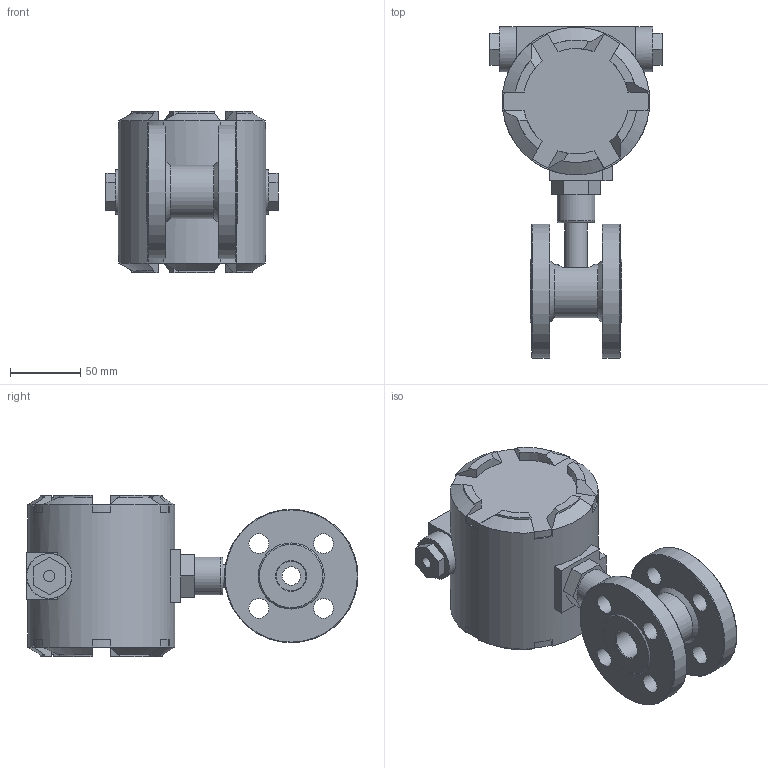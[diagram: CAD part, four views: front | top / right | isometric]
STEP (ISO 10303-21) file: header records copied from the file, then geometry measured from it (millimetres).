
FILE_DESCRIPTION( (''), '2;1');
FILE_NAME( 'QTKC_DN12_flange_Ex.step', '2025-02-07T11:02:29+08:00', (''), (''), '', '', '');
FILE_SCHEMA (('AUTOMOTIVE_DESIGN { 1 0 10303 214 3 1 1 1 }'));
Length unit declared in the file: millimetre
Products named in the file (1): QTKC DN12_flange_Ex
Bounding box: 122.4 x 236 x 115 mm (x, y, z)
Volume: 1143307.1 mm3; surface area: 122433.5 mm2
Topology: 4 solids, 4 shells, 1342 faces, 3667 edges, 2439 vertices
Faces by surface type: plane 726, extrusion 504, cylinder 78, cone 22, torus 10, bspline 2
Full cylindrical faces by diameter (mm): 3.3 x1, 8 x2, 13 x1, 14 x8, 16 x1, 17 x1, 18.5 x1, 20 x2, 21 x2, 27 x1, 32 x2, 38 x1, 68 x1, 95 x2, 105 x1
Entity records: 45624 total; most frequent: CARTESIAN_POINT 13668, ORIENTED_EDGE 7206, DIRECTION 4951, EDGE_CURVE 3603, VECTOR 2821, VERTEX_POINT 2422, LINE 2317, B_SPLINE_CURVE_WITH_KNOTS 1562
